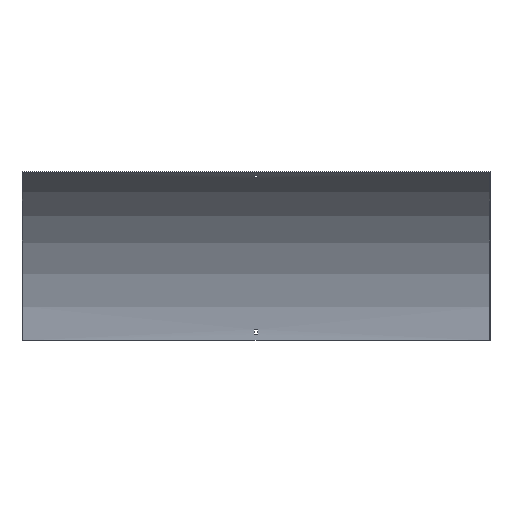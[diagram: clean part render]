
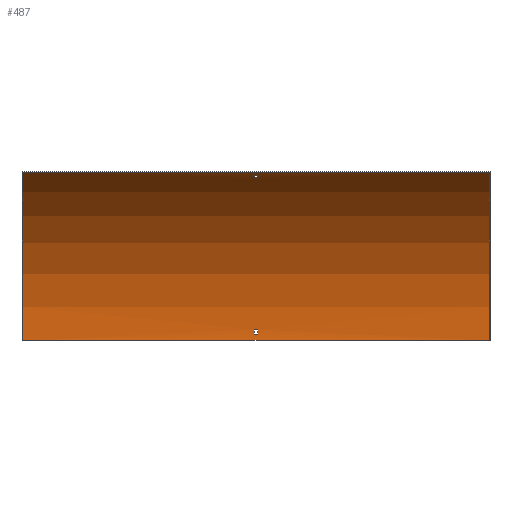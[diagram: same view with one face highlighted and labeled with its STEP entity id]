
A CAD part, front view. The second image highlights one B-rep face of the part: STEP entity #487.
In plain terms, the highlighted cylindrical face has radius 375 mm (diameter 750 mm), a partial arc.
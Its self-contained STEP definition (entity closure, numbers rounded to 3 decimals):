
#1 = ORIENTED_EDGE ( 'NONE', *, *, #370, .F. ) ;
#16 = DIRECTION ( 'NONE',  ( 1., 0., 0. ) ) ;
#19 = CARTESIAN_POINT ( 'NONE',  ( 3.25, -2.088, 21. ) ) ;
#32 = VERTEX_POINT ( 'NONE', #210 ) ;
#33 = CARTESIAN_POINT ( 'NONE',  ( 451.5, -2.088, 21. ) ) ;
#34 = VECTOR ( 'NONE', #174, 1000. ) ;
#39 = EDGE_CURVE ( 'NONE', #103, #184, #450, .T. ) ;
#45 = EDGE_LOOP ( 'NONE', ( #213, #249, #454, #460 ) ) ;
#48 = LINE ( 'NONE', #185, #492 ) ;
#64 = EDGE_CURVE ( 'NONE', #365, #103, #274, .T. ) ;
#65 = LINE ( 'NONE', #256, #142 ) ;
#66 = DIRECTION ( 'NONE',  ( 0., 0., 1. ) ) ;
#67 = AXIS2_PLACEMENT_3D ( 'NONE', #119, #73, #257 ) ;
#73 = DIRECTION ( 'NONE',  ( 1., 0., 0. ) ) ;
#80 = FACE_BOUND ( 'NONE', #398, .T. ) ;
#81 = VERTEX_POINT ( 'NONE', #327 ) ;
#91 = CARTESIAN_POINT ( 'NONE',  ( -3.25, -1.692, 12. ) ) ;
#98 = DIRECTION ( 'NONE',  ( -1., 0., 0. ) ) ;
#100 = ORIENTED_EDGE ( 'NONE', *, *, #431, .F. ) ;
#103 = VERTEX_POINT ( 'NONE', #405 ) ;
#110 = DIRECTION ( 'NONE',  ( -1., 0., 0. ) ) ;
#119 = CARTESIAN_POINT ( 'NONE',  ( 450., -376.5, 0. ) ) ;
#131 = VECTOR ( 'NONE', #424, 1000. ) ;
#132 = VERTEX_POINT ( 'NONE', #458 ) ;
#142 = VECTOR ( 'NONE', #167, 1000. ) ;
#156 = CARTESIAN_POINT ( 'NONE',  ( 3.25, -376.5, 0. ) ) ;
#163 = AXIS2_PLACEMENT_3D ( 'NONE', #293, #242, #362 ) ;
#166 = EDGE_CURVE ( 'NONE', #473, #81, #470, .T. ) ;
#167 = DIRECTION ( 'NONE',  ( -1., 0., 0. ) ) ;
#174 = DIRECTION ( 'NONE',  ( -1., 0., 0. ) ) ;
#181 = CARTESIAN_POINT ( 'NONE',  ( 3.25, -1.692, 12. ) ) ;
#184 = VERTEX_POINT ( 'NONE', #91 ) ;
#185 = CARTESIAN_POINT ( 'NONE',  ( 451.5, -171.108, 313.75 ) ) ;
#188 = LINE ( 'NONE', #416, #131 ) ;
#197 = CYLINDRICAL_SURFACE ( 'NONE', #199, 375. ) ;
#199 = AXIS2_PLACEMENT_3D ( 'NONE', #303, #437, #433 ) ;
#200 = LINE ( 'NONE', #528, #355 ) ;
#206 = CARTESIAN_POINT ( 'NONE',  ( 3.25, -178.704, 318.593 ) ) ;
#208 = EDGE_CURVE ( 'NONE', #184, #244, #188, .T. ) ;
#210 = CARTESIAN_POINT ( 'NONE',  ( 450., -1.5, 0. ) ) ;
#212 = CARTESIAN_POINT ( 'NONE',  ( 450., -189., 324.76 ) ) ;
#213 = ORIENTED_EDGE ( 'NONE', *, *, #251, .T. ) ;
#242 = DIRECTION ( 'NONE',  ( 1., 0., 0. ) ) ;
#244 = VERTEX_POINT ( 'NONE', #181 ) ;
#247 = ORIENTED_EDGE ( 'NONE', *, *, #409, .T. ) ;
#249 = ORIENTED_EDGE ( 'NONE', *, *, #295, .T. ) ;
#251 = EDGE_CURVE ( 'NONE', #132, #445, #48, .T. ) ;
#256 = CARTESIAN_POINT ( 'NONE',  ( 450., -1.5, 0. ) ) ;
#257 = DIRECTION ( 'NONE',  ( 0., 0., -1. ) ) ;
#262 = CARTESIAN_POINT ( 'NONE',  ( -3.25, -171.108, 313.75 ) ) ;
#266 = FACE_BOUND ( 'NONE', #45, .T. ) ;
#274 = LINE ( 'NONE', #33, #34 ) ;
#284 = CIRCLE ( 'NONE', #329, 375. ) ;
#293 = CARTESIAN_POINT ( 'NONE',  ( 3.25, -376.5, 0. ) ) ;
#294 = DIRECTION ( 'NONE',  ( 1., 0., 0. ) ) ;
#295 = EDGE_CURVE ( 'NONE', #445, #530, #560, .T. ) ;
#298 = AXIS2_PLACEMENT_3D ( 'NONE', #520, #294, #333 ) ;
#301 = CARTESIAN_POINT ( 'NONE',  ( -450., -1.5, 0. ) ) ;
#303 = CARTESIAN_POINT ( 'NONE',  ( 451.5, -376.5, 0. ) ) ;
#312 = DIRECTION ( 'NONE',  ( 0., 0., 1. ) ) ;
#320 = FACE_OUTER_BOUND ( 'NONE', #410, .T. ) ;
#326 = VECTOR ( 'NONE', #98, 1000. ) ;
#327 = CARTESIAN_POINT ( 'NONE',  ( -450., -189., 324.76 ) ) ;
#329 = AXIS2_PLACEMENT_3D ( 'NONE', #156, #404, #312 ) ;
#333 = DIRECTION ( 'NONE',  ( 0., 1., 0. ) ) ;
#337 = AXIS2_PLACEMENT_3D ( 'NONE', #435, #531, #430 ) ;
#348 = CARTESIAN_POINT ( 'NONE',  ( -3.25, -376.5, 0. ) ) ;
#355 = VECTOR ( 'NONE', #16, 1000. ) ;
#362 = DIRECTION ( 'NONE',  ( 0., 0., -1. ) ) ;
#365 = VERTEX_POINT ( 'NONE', #19 ) ;
#369 = AXIS2_PLACEMENT_3D ( 'NONE', #348, #110, #66 ) ;
#370 = EDGE_CURVE ( 'NONE', #377, #81, #508, .T. ) ;
#374 = CARTESIAN_POINT ( 'NONE',  ( 450., -189., 324.76 ) ) ;
#377 = VERTEX_POINT ( 'NONE', #301 ) ;
#379 = DIRECTION ( 'NONE',  ( -1., 0., 0. ) ) ;
#381 = ORIENTED_EDGE ( 'NONE', *, *, #208, .F. ) ;
#382 = EDGE_CURVE ( 'NONE', #530, #523, #200, .T. ) ;
#396 = ORIENTED_EDGE ( 'NONE', *, *, #39, .F. ) ;
#398 = EDGE_LOOP ( 'NONE', ( #396, #595, #100, #381 ) ) ;
#404 = DIRECTION ( 'NONE',  ( -1., 0., 0. ) ) ;
#405 = CARTESIAN_POINT ( 'NONE',  ( -3.25, -2.088, 21. ) ) ;
#409 = EDGE_CURVE ( 'NONE', #32, #473, #518, .T. ) ;
#410 = EDGE_LOOP ( 'NONE', ( #1, #570, #247, #535 ) ) ;
#416 = CARTESIAN_POINT ( 'NONE',  ( 451.5, -1.692, 12. ) ) ;
#424 = DIRECTION ( 'NONE',  ( 1., 0., 0. ) ) ;
#430 = DIRECTION ( 'NONE',  ( 0., 0., -1. ) ) ;
#431 = EDGE_CURVE ( 'NONE', #244, #365, #587, .T. ) ;
#433 = DIRECTION ( 'NONE',  ( 0., 0., 1. ) ) ;
#435 = CARTESIAN_POINT ( 'NONE',  ( -450., -376.5, 0. ) ) ;
#437 = DIRECTION ( 'NONE',  ( -1., 0., 0. ) ) ;
#445 = VERTEX_POINT ( 'NONE', #262 ) ;
#450 = CIRCLE ( 'NONE', #369, 375. ) ;
#454 = ORIENTED_EDGE ( 'NONE', *, *, #382, .T. ) ;
#458 = CARTESIAN_POINT ( 'NONE',  ( 3.25, -171.108, 313.75 ) ) ;
#460 = ORIENTED_EDGE ( 'NONE', *, *, #468, .T. ) ;
#468 = EDGE_CURVE ( 'NONE', #523, #132, #284, .T. ) ;
#470 = LINE ( 'NONE', #374, #326 ) ;
#473 = VERTEX_POINT ( 'NONE', #212 ) ;
#484 = CARTESIAN_POINT ( 'NONE',  ( -3.25, -178.704, 318.593 ) ) ;
#487 = ADVANCED_FACE ( 'NONE', ( #80, #320, #266 ), #197, .F. ) ;
#492 = VECTOR ( 'NONE', #379, 1000. ) ;
#508 = CIRCLE ( 'NONE', #337, 375. ) ;
#518 = CIRCLE ( 'NONE', #67, 375. ) ;
#520 = CARTESIAN_POINT ( 'NONE',  ( -3.25, -376.5, 0. ) ) ;
#523 = VERTEX_POINT ( 'NONE', #206 ) ;
#528 = CARTESIAN_POINT ( 'NONE',  ( 451.5, -178.704, 318.593 ) ) ;
#530 = VERTEX_POINT ( 'NONE', #484 ) ;
#531 = DIRECTION ( 'NONE',  ( 1., 0., 0. ) ) ;
#535 = ORIENTED_EDGE ( 'NONE', *, *, #166, .T. ) ;
#544 = EDGE_CURVE ( 'NONE', #32, #377, #65, .T. ) ;
#560 = CIRCLE ( 'NONE', #298, 375. ) ;
#570 = ORIENTED_EDGE ( 'NONE', *, *, #544, .F. ) ;
#587 = CIRCLE ( 'NONE', #163, 375. ) ;
#595 = ORIENTED_EDGE ( 'NONE', *, *, #64, .F. ) ;
